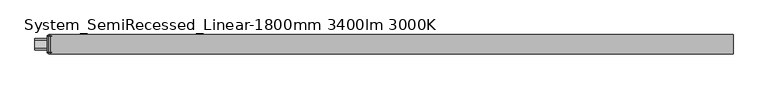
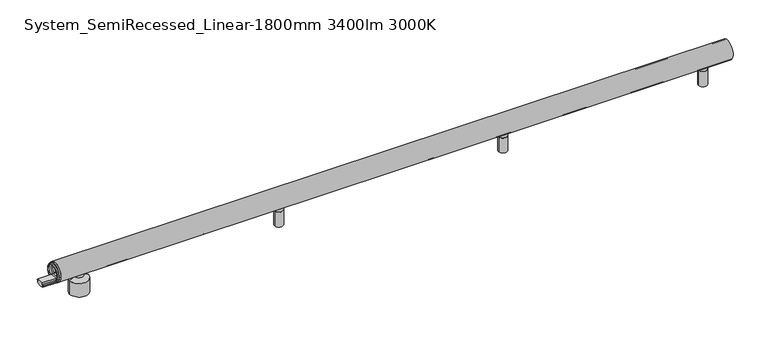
"""IFC4 building model written with IfcOpenShell, lengths in millimetres: light fixture geometry, ARTEMIDE-AoL-System-Linear_WallCeiling_US : System_SemiRecessed_Linear-1800mm 3400lm 3000K."""

from ifc_helpers import new_model, si_unit, point, frame, frame_2d, origin, place, context, project, spatial, polyline, circle_curve, trimmed, segment, composite_curve, outline, extrude, source, transform, mapped, element, save
from ifc_brep_helpers import plane_surface, cylinder_surface, revolved_surface, advanced_brep


def system_semirecessed_linear_1800mm_3400lm_3000k_59401406(model_context):
    return source(origin(), model_context, "Body", "SolidModel", [
        advanced_brep(
        [(-2.0, 25.0245983, 74.9754017), (-2.0, -25.0245983, 74.9754017), (-2.0, -9.5062575, 60.6916114), (-2.0, -9.5062575, 64.3781516), (-2.0, 9.5062575, 64.3781516), (-2.0, 9.5062575, 60.6916114), (-2.0, 15.4273739, 60.6916114), (-2.0, 17.2867732, 60.6916114), (-2.0, -17.2867732, 60.6916114), (-2.0, -15.4273739, 60.6916114), (2.0, 25.0245983, 74.9754017), (2.0, -25.0245983, 74.9754017), (2.0, -9.5062575, 60.6916114), (2.0, -15.4273739, 60.6916114), (2.0, -17.2867732, 60.6916114), (2.0, 17.2867732, 60.6916114), (2.0, 15.4273739, 60.6916114), (2.0, 9.5062575, 60.6916114), (2.0, 9.5062575, 64.3781516), (2.0, -9.5062575, 64.3781516), (-6.0, -15.4273739, 60.6916114), (-6.0, -17.2867732, 60.6916114), (-6.0, 17.2867732, 60.6916114), (-6.0, 15.4273739, 60.6916114), (6.0, -15.4273739, 60.6916114), (6.0, 15.4273739, 60.6916114), (6.0, 17.2867732, 60.6916114), (6.0, -17.2867732, 60.6916114)],
        [
            (0, 1, circle_curve(frame((-2.0, 0.0, 74.9754017), z_axis=(-1.0, 0.0, 0.0), x_axis=(0.0, -1.0, 0.0)), 25.0245983)),
            (1, 0, circle_curve(frame((-2.0, 0.0, 74.9754017), z_axis=(-1.0, 0.0, 0.0), x_axis=(0.0, -1.0, 0.0)), 25.0245983)),
            (2, 3),
            (3, 4),
            (4, 5),
            (5, 6),
            (6, 7),
            (7, 8, circle_curve(frame((-2.0, 0.0, 74.9754017), z_axis=(1.0, 0.0, 0.0), x_axis=(0.0, -1.0, 0.0)), 22.4245221)),
            (8, 9),
            (9, 2),
            (10, 11, circle_curve(frame((2.0, 0.0, 74.9754017), z_axis=(1.0, 0.0, 0.0), x_axis=(0.0, -1.0, 0.0)), 25.0245983)),
            (11, 10, circle_curve(frame((2.0, 0.0, 74.9754017), z_axis=(1.0, 0.0, 0.0), x_axis=(0.0, -1.0, 0.0)), 25.0245983)),
            (12, 13),
            (13, 14),
            (14, 15, circle_curve(frame((2.0, 0.0, 74.9754017), z_axis=(-1.0, 0.0, 0.0), x_axis=(0.0, -1.0, 0.0)), 22.4245221)),
            (15, 16),
            (16, 17),
            (17, 18),
            (18, 19),
            (19, 12),
            (5, 17),
            (16, 6),
            (9, 13),
            (12, 2),
            (19, 3),
            (0, 10),
            (11, 1),
            (16, 13, circle_curve(frame((2.0, 0.0, 74.9754017), z_axis=(1.0, 0.0, 0.0), x_axis=(0.0, -1.0, 0.0)), 21.0245221)),
            (9, 6, circle_curve(frame((-2.0, 0.0, 74.9754017), z_axis=(-1.0, 0.0, 0.0), x_axis=(0.0, -1.0, 0.0)), 21.0245221)),
            (20, 21),
            (21, 22, circle_curve(frame((-6.0, 0.0, 74.9754017), z_axis=(-1.0, 0.0, 0.0), x_axis=(0.0, -1.0, 0.0)), 22.4245221)),
            (22, 23),
            (23, 20, circle_curve(frame((-6.0, 0.0, 74.9754017), z_axis=(1.0, 0.0, 0.0), x_axis=(0.0, -1.0, 0.0)), 21.0245221)),
            (24, 25, circle_curve(frame((6.0, 0.0, 74.9754017), z_axis=(-1.0, 0.0, 0.0), x_axis=(0.0, -1.0, 0.0)), 21.0245221)),
            (25, 26),
            (26, 27, circle_curve(frame((6.0, 0.0, 74.9754017), z_axis=(1.0, 0.0, 0.0), x_axis=(0.0, -1.0, 0.0)), 22.4245221)),
            (27, 24),
            (23, 6),
            (9, 20),
            (24, 13),
            (16, 25),
            (8, 21),
            (27, 14),
            (7, 22),
            (26, 15),
            (18, 4),
        ],
        [
            plane_surface(frame((-2.0, 0.0, 74.9754017), z_axis=(-1.0, 0.0, 0.0), x_axis=(0.0, 0.0, -1.0))),
            plane_surface(frame((2.0, 0.0, 74.9754017), z_axis=(1.0, 0.0, 0.0), x_axis=(0.0, 0.0, -1.0))),
            plane_surface(frame((-2.0, 9.5062575, 60.6916114), z_axis=(0.0, 0.0, 1.0), x_axis=(1.0, 0.0, 0.0))),
            plane_surface(frame((-2.0, -15.4273739, 60.6916114), z_axis=(0.0, 0.0, 1.0), x_axis=(1.0, 0.0, 0.0))),
            plane_surface(frame((-2.0, -9.5062575, 60.6916114), z_axis=(0.0, -1.0, 0.0), x_axis=(1.0, 0.0, 0.0))),
            cylinder_surface(frame((-2.0, 0.0, 74.9754017), z_axis=(-1.0, 0.0, 0.0), x_axis=(0.0, -1.0, 0.0)), 25.0245983),
            revolved_surface(polyline([(2.0, -21.0245221, 74.9754017), (-2.0, -21.0245221, 74.9754017)]), (-2.0, 0.0, 74.9754017), (1.0, 0.0, 0.0)),
            plane_surface(frame((-6.0, 0.0, 74.9754017), z_axis=(-1.0, 0.0, 0.0), x_axis=(0.0, 0.0, -1.0))),
            plane_surface(frame((6.0, 0.0, 74.9754017), z_axis=(1.0, 0.0, 0.0), x_axis=(0.0, 0.0, -1.0))),
            revolved_surface(polyline([(-2.0, -21.0245221, 74.9754017), (-6.0, -21.0245221, 74.9754017)]), (-6.0, 0.0, 74.9754017), (1.0, 0.0, 0.0)),
            revolved_surface(polyline([(6.0, -21.0245221, 74.9754017), (2.0, -21.0245221, 74.9754017)]), (-6.0, 0.0, 74.9754017), (1.0, 0.0, 0.0)),
            plane_surface(frame((-6.0, -15.4273739, 60.6916114), z_axis=(0.0, 0.0, -1.0), x_axis=(1.0, 0.0, 0.0))),
            cylinder_surface(frame((-6.0, 0.0, 74.9754017), z_axis=(-1.0, 0.0, 0.0), x_axis=(0.0, -1.0, 0.0)), 22.4245221),
            plane_surface(frame((-6.0, 17.2867732, 60.6916114), z_axis=(0.0, 0.0, -1.0), x_axis=(1.0, 0.0, 0.0))),
            plane_surface(frame((-2.0, -9.5062575, 64.3781516), z_axis=(0.0, 0.0, 1.0), x_axis=(1.0, 0.0, 0.0))),
            plane_surface(frame((-2.0, 9.5062575, 64.3781516), z_axis=(0.0, 1.0, 0.0), x_axis=(1.0, 0.0, 0.0))),
        ],
        [
            (0, [[1, 2], [3, 4, 5, 6, 7, 8, 9, 10]]),
            (1, [[11, 12], [13, 14, 15, 16, 17, 18, 19, 20]]),
            (2, [[-6, 21, -17, 22]]),
            (3, [[-10, 23, -13, 24]]),
            (4, [[-3, -24, -20, 25]]),
            (5, [[-1, 26, -12, 27]]),
            (6, [[-22, 28, -23, 29]]),
            (7, [[30, 31, 32, 33]]),
            (8, [[34, 35, 36, 37]]),
            (9, [[-33, 38, -29, 39]]),
            (10, [[-34, 40, -28, 41]]),
            (11, [[-30, -39, -9, 42]]),
            (11, [[-37, 43, -14, -40]]),
            (12, [[-31, -42, -8, 44]]),
            (12, [[-36, 45, -15, -43]]),
            (13, [[-32, -44, -7, -38]]),
            (13, [[-35, -41, -16, -45]]),
            (5, [[-2, -27, -11, -26]]),
            (14, [[-4, -25, -19, 46]]),
            (15, [[-5, -46, -18, -21]]),
        ],
    ),
        extrude(outline(composite_curve([segment(polyline([(-11.75, 57.2067494), (-15.304087, 57.2067494), (-15.304087, 58.7367744), (-9.5062575, 58.7367744), (-9.5062575, 64.3781516), (9.5062575, 64.3781516), (9.5062575, 58.7367744), (15.304087, 58.7367744), (15.304087, 57.2067494), (11.75, 57.2067494), (11.75, 52.880877)]), True, "CONTINUOUS"), segment(trimmed(circle_curve(frame_2d((0.0, 74.9754017)), 25.0245983), [point((11.75, 52.880877))], [point((-11.75, 52.880877))], False, "CARTESIAN"), True, "CONTINUOUS"), segment(polyline([(-11.75, 52.880877), (-11.75, 57.2067494)]), True, "CONTINUOUS")], self_intersect=False)), frame((2.0, 0.0, 0.0), z_axis=(1.0, 0.0, 0.0), x_axis=(0.0, 1.0, 0.0)), (0.0, 0.0, 1.0), 36.0),
        extrude(outline(composite_curve([segment(polyline([(-11.75, 57.2067494), (-15.304087, 57.2067494), (-15.304087, 58.7367744), (-9.5062575, 58.7367744), (-9.5062575, 64.3781516), (9.5062575, 64.3781516), (9.5062575, 58.7367744), (15.304087, 58.7367744), (15.304087, 57.2067494), (11.75, 57.2067494), (11.75, 52.880877)]), True, "CONTINUOUS"), segment(trimmed(circle_curve(frame_2d((0.0, 74.9754017)), 25.0245983), [point((11.75, 52.880877))], [point((-11.75, 52.880877))], False, "CARTESIAN"), True, "CONTINUOUS"), segment(polyline([(-11.75, 52.880877), (-11.75, 57.2067494)]), True, "CONTINUOUS")], self_intersect=False)), frame((-38.0, 0.0, 0.0), z_axis=(1.0, 0.0, 0.0), x_axis=(0.0, 1.0, 0.0)), (0.0, 0.0, 1.0), 36.0),
        advanced_brep(
        [(588.6387897, 0.0, 1.0), (598.027877, 0.0, 1.0), (598.027877, 0.0, 0.0), (588.6387897, 0.0, 0.0), (582.1387897, 0.0, 1.0), (604.527877, 0.0, 1.0), (582.1387897, 0.0, 42.5), (604.527877, 0.0, 42.5), (584.6144141, 0.0, 42.5), (602.0522526, 0.0, 42.5), (584.6144141, 0.0, 43.4995055), (602.0522526, 0.0, 43.4995055), (582.1387897, 0.0, 43.4995055), (604.527877, 0.0, 43.4995055), (582.1387897, 0.0, 52.9333396), (604.527877, 0.0, 52.9333396), (593.3333333, 0.0, 52.9333396), (593.3333333, 0.0, 0.0)],
        [
            (0, 1, circle_curve(frame((593.3333333, 0.0, 1.0), z_axis=(0.0, 0.0, -1.0), x_axis=(1.0, 0.0, 0.0)), 4.6945436)),
            (1, 2),
            (2, 3, circle_curve(frame((593.3333333, 0.0, 0.0), z_axis=(0.0, 0.0, 1.0), x_axis=(1.0, 0.0, 0.0)), 4.6945436)),
            (3, 0),
            (1, 0, circle_curve(frame((593.3333333, 0.0, 1.0), z_axis=(0.0, 0.0, -1.0), x_axis=(1.0, 0.0, 0.0)), 4.6945436)),
            (3, 2, circle_curve(frame((593.3333333, 0.0, 0.0), z_axis=(0.0, 0.0, 1.0), x_axis=(1.0, 0.0, 0.0)), 4.6945436)),
            (4, 5, circle_curve(frame((593.3333333, 0.0, 1.0), z_axis=(0.0, 0.0, -1.0), x_axis=(1.0, 0.0, 0.0)), 11.1945436)),
            (5, 1),
            (0, 4),
            (5, 4, circle_curve(frame((593.3333333, 0.0, 1.0), z_axis=(0.0, 0.0, -1.0), x_axis=(1.0, 0.0, 0.0)), 11.1945436)),
            (6, 7, circle_curve(frame((593.3333333, 0.0, 42.5), z_axis=(0.0, 0.0, -1.0), x_axis=(1.0, 0.0, 0.0)), 11.1945436)),
            (7, 5),
            (4, 6),
            (7, 6, circle_curve(frame((593.3333333, 0.0, 42.5), z_axis=(0.0, 0.0, -1.0), x_axis=(1.0, 0.0, 0.0)), 11.1945436)),
            (8, 9, circle_curve(frame((593.3333333, 0.0, 42.5), z_axis=(0.0, 0.0, -1.0), x_axis=(1.0, 0.0, 0.0)), 8.7189192)),
            (9, 7),
            (6, 8),
            (9, 8, circle_curve(frame((593.3333333, 0.0, 42.5), z_axis=(0.0, 0.0, -1.0), x_axis=(1.0, 0.0, 0.0)), 8.7189192)),
            (10, 11, circle_curve(frame((593.3333333, 0.0, 43.4995055), z_axis=(0.0, 0.0, -1.0), x_axis=(1.0, 0.0, 0.0)), 8.7189192)),
            (11, 9),
            (8, 10),
            (11, 10, circle_curve(frame((593.3333333, 0.0, 43.4995055), z_axis=(0.0, 0.0, -1.0), x_axis=(1.0, 0.0, 0.0)), 8.7189192)),
            (12, 13, circle_curve(frame((593.3333333, 0.0, 43.4995055), z_axis=(0.0, 0.0, -1.0), x_axis=(1.0, 0.0, 0.0)), 11.1945436)),
            (13, 11),
            (10, 12),
            (13, 12, circle_curve(frame((593.3333333, 0.0, 43.4995055), z_axis=(0.0, 0.0, -1.0), x_axis=(1.0, 0.0, 0.0)), 11.1945436)),
            (14, 15, circle_curve(frame((593.3333333, 0.0, 52.9333396), z_axis=(0.0, 0.0, -1.0), x_axis=(1.0, 0.0, 0.0)), 11.1945436)),
            (15, 13),
            (12, 14),
            (15, 14, circle_curve(frame((593.3333333, 0.0, 52.9333396), z_axis=(0.0, 0.0, -1.0), x_axis=(1.0, 0.0, 0.0)), 11.1945436)),
            (16, 15),
            (14, 16),
            (2, 17),
            (17, 3),
        ],
        [
            cylinder_surface(frame((593.3333333, 0.0, -58.83358), z_axis=(0.0, 0.0, 1.0), x_axis=(1.0, 0.0, 0.0)), 4.6945436),
            plane_surface(frame((593.3333333, 0.0, 1.0), z_axis=(0.0, 0.0, -1.0), x_axis=(1.0, 0.0, 0.0))),
            cylinder_surface(frame((593.3333333, 0.0, -58.83358), z_axis=(0.0, 0.0, 1.0), x_axis=(1.0, 0.0, 0.0)), 11.1945436),
            plane_surface(frame((593.3333333, 0.0, 42.5), z_axis=(0.0, 0.0, 1.0), x_axis=(1.0, 0.0, 0.0))),
            cylinder_surface(frame((593.3333333, 0.0, -58.83358), z_axis=(0.0, 0.0, 1.0), x_axis=(1.0, 0.0, 0.0)), 8.7189192),
            plane_surface(frame((593.3333333, 0.0, 43.4995055), z_axis=(0.0, 0.0, -1.0), x_axis=(1.0, 0.0, 0.0))),
            plane_surface(frame((593.3333333, 0.0, 52.9333396), z_axis=(0.0, 0.0, 1.0), x_axis=(1.0, 0.0, 0.0))),
            plane_surface(frame((593.3333333, 0.0, 0.0), z_axis=(0.0, 0.0, -1.0), x_axis=(1.0, 0.0, 0.0))),
        ],
        [
            (0, [[1, 2, 3, 4]]),
            (0, [[5, -4, 6, -2]]),
            (1, [[7, 8, -1, 9]]),
            (1, [[10, -9, -5, -8]]),
            (2, [[11, 12, -7, 13]]),
            (2, [[14, -13, -10, -12]]),
            (3, [[15, 16, -11, 17]]),
            (3, [[18, -17, -14, -16]]),
            (4, [[19, 20, -15, 21]]),
            (4, [[22, -21, -18, -20]]),
            (5, [[23, 24, -19, 25]]),
            (5, [[26, -25, -22, -24]]),
            (2, [[27, 28, -23, 29]]),
            (2, [[30, -29, -26, -28]]),
            (6, [[31, -27, 32]]),
            (6, [[-32, -30, -31]]),
            (7, [[-3, 33, 34]]),
            (7, [[-6, -34, -33]]),
        ],
    ),
        advanced_brep(
        [(1181.972123, 0.0, 1.0), (1191.3612103, 0.0, 1.0), (1191.3612103, 0.0, 0.0), (1181.972123, 0.0, 0.0), (1175.472123, 0.0, 1.0), (1197.8612103, 0.0, 1.0), (1175.472123, 0.0, 42.5), (1197.8612103, 0.0, 42.5), (1177.9477474, 0.0, 42.5), (1195.3855859, 0.0, 42.5), (1177.9477474, 0.0, 43.4995055), (1195.3855859, 0.0, 43.4995055), (1175.472123, 0.0, 43.4995055), (1197.8612103, 0.0, 43.4995055), (1175.472123, 0.0, 52.9333396), (1197.8612103, 0.0, 52.9333396), (1186.6666667, 0.0, 52.9333396), (1186.6666667, 0.0, 0.0)],
        [
            (0, 1, circle_curve(frame((1186.6666667, 0.0, 1.0), z_axis=(0.0, 0.0, -1.0), x_axis=(1.0, 0.0, 0.0)), 4.6945436)),
            (1, 2),
            (2, 3, circle_curve(frame((1186.6666667, 0.0, 0.0), z_axis=(0.0, 0.0, 1.0), x_axis=(1.0, 0.0, 0.0)), 4.6945436)),
            (3, 0),
            (1, 0, circle_curve(frame((1186.6666667, 0.0, 1.0), z_axis=(0.0, 0.0, -1.0), x_axis=(1.0, 0.0, 0.0)), 4.6945436)),
            (3, 2, circle_curve(frame((1186.6666667, 0.0, 0.0), z_axis=(0.0, 0.0, 1.0), x_axis=(1.0, 0.0, 0.0)), 4.6945436)),
            (4, 5, circle_curve(frame((1186.6666667, 0.0, 1.0), z_axis=(0.0, 0.0, -1.0), x_axis=(1.0, 0.0, 0.0)), 11.1945436)),
            (5, 1),
            (0, 4),
            (5, 4, circle_curve(frame((1186.6666667, 0.0, 1.0), z_axis=(0.0, 0.0, -1.0), x_axis=(1.0, 0.0, 0.0)), 11.1945436)),
            (6, 7, circle_curve(frame((1186.6666667, 0.0, 42.5), z_axis=(0.0, 0.0, -1.0), x_axis=(1.0, 0.0, 0.0)), 11.1945436)),
            (7, 5),
            (4, 6),
            (7, 6, circle_curve(frame((1186.6666667, 0.0, 42.5), z_axis=(0.0, 0.0, -1.0), x_axis=(1.0, 0.0, 0.0)), 11.1945436)),
            (8, 9, circle_curve(frame((1186.6666667, 0.0, 42.5), z_axis=(0.0, 0.0, -1.0), x_axis=(1.0, 0.0, 0.0)), 8.7189192)),
            (9, 7),
            (6, 8),
            (9, 8, circle_curve(frame((1186.6666667, 0.0, 42.5), z_axis=(0.0, 0.0, -1.0), x_axis=(1.0, 0.0, 0.0)), 8.7189192)),
            (10, 11, circle_curve(frame((1186.6666667, 0.0, 43.4995055), z_axis=(0.0, 0.0, -1.0), x_axis=(1.0, 0.0, 0.0)), 8.7189192)),
            (11, 9),
            (8, 10),
            (11, 10, circle_curve(frame((1186.6666667, 0.0, 43.4995055), z_axis=(0.0, 0.0, -1.0), x_axis=(1.0, 0.0, 0.0)), 8.7189192)),
            (12, 13, circle_curve(frame((1186.6666667, 0.0, 43.4995055), z_axis=(0.0, 0.0, -1.0), x_axis=(1.0, 0.0, 0.0)), 11.1945436)),
            (13, 11),
            (10, 12),
            (13, 12, circle_curve(frame((1186.6666667, 0.0, 43.4995055), z_axis=(0.0, 0.0, -1.0), x_axis=(1.0, 0.0, 0.0)), 11.1945436)),
            (14, 15, circle_curve(frame((1186.6666667, 0.0, 52.9333396), z_axis=(0.0, 0.0, -1.0), x_axis=(1.0, 0.0, 0.0)), 11.1945436)),
            (15, 13),
            (12, 14),
            (15, 14, circle_curve(frame((1186.6666667, 0.0, 52.9333396), z_axis=(0.0, 0.0, -1.0), x_axis=(1.0, 0.0, 0.0)), 11.1945436)),
            (16, 15),
            (14, 16),
            (2, 17),
            (17, 3),
        ],
        [
            cylinder_surface(frame((1186.6666667, 0.0, -58.83358), z_axis=(0.0, 0.0, 1.0), x_axis=(1.0, 0.0, 0.0)), 4.6945436),
            plane_surface(frame((1186.6666667, 0.0, 1.0), z_axis=(0.0, 0.0, -1.0), x_axis=(1.0, 0.0, 0.0))),
            cylinder_surface(frame((1186.6666667, 0.0, -58.83358), z_axis=(0.0, 0.0, 1.0), x_axis=(1.0, 0.0, 0.0)), 11.1945436),
            plane_surface(frame((1186.6666667, 0.0, 42.5), z_axis=(0.0, 0.0, 1.0), x_axis=(1.0, 0.0, 0.0))),
            cylinder_surface(frame((1186.6666667, 0.0, -58.83358), z_axis=(0.0, 0.0, 1.0), x_axis=(1.0, 0.0, 0.0)), 8.7189192),
            plane_surface(frame((1186.6666667, 0.0, 43.4995055), z_axis=(0.0, 0.0, -1.0), x_axis=(1.0, 0.0, 0.0))),
            plane_surface(frame((1186.6666667, 0.0, 52.9333396), z_axis=(0.0, 0.0, 1.0), x_axis=(1.0, 0.0, 0.0))),
            plane_surface(frame((1186.6666667, 0.0, 0.0), z_axis=(0.0, 0.0, -1.0), x_axis=(1.0, 0.0, 0.0))),
        ],
        [
            (0, [[1, 2, 3, 4]]),
            (0, [[5, -4, 6, -2]]),
            (1, [[7, 8, -1, 9]]),
            (1, [[10, -9, -5, -8]]),
            (2, [[11, 12, -7, 13]]),
            (2, [[14, -13, -10, -12]]),
            (3, [[15, 16, -11, 17]]),
            (3, [[18, -17, -14, -16]]),
            (4, [[19, 20, -15, 21]]),
            (4, [[22, -21, -18, -20]]),
            (5, [[23, 24, -19, 25]]),
            (5, [[26, -25, -22, -24]]),
            (2, [[27, 28, -23, 29]]),
            (2, [[30, -29, -26, -28]]),
            (6, [[31, -27, 32]]),
            (6, [[-32, -30, -31]]),
            (7, [[-3, 33, 34]]),
            (7, [[-6, -34, -33]]),
        ],
    ),
        advanced_brep(
        [(64.0, 0.0, 54.0), (76.0, 0.0, 54.0), (52.0, 0.0, 54.0), (39.0, 0.0, 0.0), (89.0, 0.0, 0.0), (64.0, 0.0, 0.0), (39.0, 0.0, 37.5120373), (89.0, 0.0, 37.5120373), (52.0, 0.0, 44.4453706), (76.0, 0.0, 44.4453706)],
        [
            (0, 1),
            (1, 2, circle_curve(frame((64.0, 0.0, 54.0), z_axis=(0.0, 0.0, 1.0), x_axis=(1.0, 0.0, 0.0)), 12.0)),
            (2, 0),
            (2, 1, circle_curve(frame((64.0, 0.0, 54.0), z_axis=(0.0, 0.0, 1.0), x_axis=(1.0, 0.0, 0.0)), 12.0)),
            (3, 4, circle_curve(frame((64.0, 0.0, 0.0), z_axis=(0.0, 0.0, -1.0), x_axis=(1.0, 0.0, 0.0)), 25.0)),
            (4, 5),
            (5, 3),
            (4, 3, circle_curve(frame((64.0, 0.0, 0.0), z_axis=(0.0, 0.0, -1.0), x_axis=(1.0, 0.0, 0.0)), 25.0)),
            (6, 7, circle_curve(frame((64.0, 0.0, 37.5120373), z_axis=(0.0, 0.0, -1.0), x_axis=(1.0, 0.0, 0.0)), 25.0)),
            (7, 4),
            (3, 6),
            (7, 6, circle_curve(frame((64.0, 0.0, 37.5120373), z_axis=(0.0, 0.0, -1.0), x_axis=(1.0, 0.0, 0.0)), 25.0)),
            (8, 9, circle_curve(frame((64.0, 0.0, 44.4453706), z_axis=(0.0, 0.0, -1.0), x_axis=(1.0, 0.0, 0.0)), 12.0)),
            (9, 7),
            (6, 8),
            (9, 8, circle_curve(frame((64.0, 0.0, 44.4453706), z_axis=(0.0, 0.0, -1.0), x_axis=(1.0, 0.0, 0.0)), 12.0)),
            (1, 9),
            (8, 2),
        ],
        [
            plane_surface(frame((64.0, 0.0, 54.0), z_axis=(0.0, 0.0, 1.0), x_axis=(1.0, 0.0, 0.0))),
            plane_surface(frame((64.0, 0.0, 0.0), z_axis=(0.0, 0.0, -1.0), x_axis=(1.0, 0.0, 0.0))),
            cylinder_surface(frame((64.0, 0.0, -58.83358), z_axis=(0.0, 0.0, 1.0), x_axis=(1.0, 0.0, 0.0)), 25.0),
            revolved_surface(polyline([(89.0, 0.0, 37.5120373), (76.0, 0.0, 44.4453706)]), (64.0, 0.0, -58.83358), (0.0, 0.0, 1.0)),
            cylinder_surface(frame((64.0, 0.0, -58.83358), z_axis=(0.0, 0.0, 1.0), x_axis=(1.0, 0.0, 0.0)), 12.0),
        ],
        [
            (0, [[1, 2, 3]]),
            (0, [[-3, 4, -1]]),
            (1, [[5, 6, 7]]),
            (1, [[8, -7, -6]]),
            (2, [[9, 10, -5, 11]]),
            (2, [[12, -11, -8, -10]]),
            (3, [[13, 14, -9, 15]]),
            (3, [[16, -15, -12, -14]]),
            (4, [[-2, 17, -13, 18]]),
            (4, [[-4, -18, -16, -17]]),
        ],
    ),
        advanced_brep(
        [(1711.3054564, 0.0, 1.0), (1720.6945436, 0.0, 1.0), (1720.6945436, 0.0, 0.0), (1711.3054564, 0.0, 0.0), (1704.8054564, 0.0, 1.0), (1727.1945436, 0.0, 1.0), (1704.8054564, 0.0, 42.5), (1727.1945436, 0.0, 42.5), (1707.2810808, 0.0, 42.5), (1724.7189192, 0.0, 42.5), (1707.2810808, 0.0, 43.4995055), (1724.7189192, 0.0, 43.4995055), (1704.8054564, 0.0, 43.4995055), (1727.1945436, 0.0, 43.4995055), (1704.8054564, 0.0, 52.9333396), (1727.1945436, 0.0, 52.9333396), (1716.0, 0.0, 52.9333396), (1716.0, 0.0, 0.0)],
        [
            (0, 1, circle_curve(frame((1716.0, 0.0, 1.0), z_axis=(0.0, 0.0, -1.0), x_axis=(1.0, 0.0, 0.0)), 4.6945436)),
            (1, 2),
            (2, 3, circle_curve(frame((1716.0, 0.0, 0.0), z_axis=(0.0, 0.0, 1.0), x_axis=(1.0, 0.0, 0.0)), 4.6945436)),
            (3, 0),
            (1, 0, circle_curve(frame((1716.0, 0.0, 1.0), z_axis=(0.0, 0.0, -1.0), x_axis=(1.0, 0.0, 0.0)), 4.6945436)),
            (3, 2, circle_curve(frame((1716.0, 0.0, 0.0), z_axis=(0.0, 0.0, 1.0), x_axis=(1.0, 0.0, 0.0)), 4.6945436)),
            (4, 5, circle_curve(frame((1716.0, 0.0, 1.0), z_axis=(0.0, 0.0, -1.0), x_axis=(1.0, 0.0, 0.0)), 11.1945436)),
            (5, 1),
            (0, 4),
            (5, 4, circle_curve(frame((1716.0, 0.0, 1.0), z_axis=(0.0, 0.0, -1.0), x_axis=(1.0, 0.0, 0.0)), 11.1945436)),
            (6, 7, circle_curve(frame((1716.0, 0.0, 42.5), z_axis=(0.0, 0.0, -1.0), x_axis=(1.0, 0.0, 0.0)), 11.1945436)),
            (7, 5),
            (4, 6),
            (7, 6, circle_curve(frame((1716.0, 0.0, 42.5), z_axis=(0.0, 0.0, -1.0), x_axis=(1.0, 0.0, 0.0)), 11.1945436)),
            (8, 9, circle_curve(frame((1716.0, 0.0, 42.5), z_axis=(0.0, 0.0, -1.0), x_axis=(1.0, 0.0, 0.0)), 8.7189192)),
            (9, 7),
            (6, 8),
            (9, 8, circle_curve(frame((1716.0, 0.0, 42.5), z_axis=(0.0, 0.0, -1.0), x_axis=(1.0, 0.0, 0.0)), 8.7189192)),
            (10, 11, circle_curve(frame((1716.0, 0.0, 43.4995055), z_axis=(0.0, 0.0, -1.0), x_axis=(1.0, 0.0, 0.0)), 8.7189192)),
            (11, 9),
            (8, 10),
            (11, 10, circle_curve(frame((1716.0, 0.0, 43.4995055), z_axis=(0.0, 0.0, -1.0), x_axis=(1.0, 0.0, 0.0)), 8.7189192)),
            (12, 13, circle_curve(frame((1716.0, 0.0, 43.4995055), z_axis=(0.0, 0.0, -1.0), x_axis=(1.0, 0.0, 0.0)), 11.1945436)),
            (13, 11),
            (10, 12),
            (13, 12, circle_curve(frame((1716.0, 0.0, 43.4995055), z_axis=(0.0, 0.0, -1.0), x_axis=(1.0, 0.0, 0.0)), 11.1945436)),
            (14, 15, circle_curve(frame((1716.0, 0.0, 52.9333396), z_axis=(0.0, 0.0, -1.0), x_axis=(1.0, 0.0, 0.0)), 11.1945436)),
            (15, 13),
            (12, 14),
            (15, 14, circle_curve(frame((1716.0, 0.0, 52.9333396), z_axis=(0.0, 0.0, -1.0), x_axis=(1.0, 0.0, 0.0)), 11.1945436)),
            (16, 15),
            (14, 16),
            (2, 17),
            (17, 3),
        ],
        [
            cylinder_surface(frame((1716.0, 0.0, -58.83358), z_axis=(0.0, 0.0, 1.0), x_axis=(1.0, 0.0, 0.0)), 4.6945436),
            plane_surface(frame((1716.0, 0.0, 1.0), z_axis=(0.0, 0.0, -1.0), x_axis=(1.0, 0.0, 0.0))),
            cylinder_surface(frame((1716.0, 0.0, -58.83358), z_axis=(0.0, 0.0, 1.0), x_axis=(1.0, 0.0, 0.0)), 11.1945436),
            plane_surface(frame((1716.0, 0.0, 42.5), z_axis=(0.0, 0.0, 1.0), x_axis=(1.0, 0.0, 0.0))),
            cylinder_surface(frame((1716.0, 0.0, -58.83358), z_axis=(0.0, 0.0, 1.0), x_axis=(1.0, 0.0, 0.0)), 8.7189192),
            plane_surface(frame((1716.0, 0.0, 43.4995055), z_axis=(0.0, 0.0, -1.0), x_axis=(1.0, 0.0, 0.0))),
            plane_surface(frame((1716.0, 0.0, 52.9333396), z_axis=(0.0, 0.0, 1.0), x_axis=(1.0, 0.0, 0.0))),
            plane_surface(frame((1716.0, 0.0, 0.0), z_axis=(0.0, 0.0, -1.0), x_axis=(1.0, 0.0, 0.0))),
        ],
        [
            (0, [[1, 2, 3, 4]]),
            (0, [[5, -4, 6, -2]]),
            (1, [[7, 8, -1, 9]]),
            (1, [[10, -9, -5, -8]]),
            (2, [[11, 12, -7, 13]]),
            (2, [[14, -13, -10, -12]]),
            (3, [[15, 16, -11, 17]]),
            (3, [[18, -17, -14, -16]]),
            (4, [[19, 20, -15, 21]]),
            (4, [[22, -21, -18, -20]]),
            (5, [[23, 24, -19, 25]]),
            (5, [[26, -25, -22, -24]]),
            (2, [[27, 28, -23, 29]]),
            (2, [[30, -29, -26, -28]]),
            (6, [[31, -27, 32]]),
            (6, [[-32, -30, -31]]),
            (7, [[-3, 33, 34]]),
            (7, [[-6, -34, -33]]),
        ],
    ),
        extrude(outline(composite_curve([segment(trimmed(circle_curve(frame_2d((0.0, 75.0)), 25.0), [point((-11.75, 52.9333396))], [point((11.75, 52.9333396))], False, "CARTESIAN"), True, "CONTINUOUS"), segment(polyline([(11.75, 52.9333396), (11.75, 57.259212), (13.667754, 57.259212), (13.667754, 55.8288843), (15.617754, 57.2440748), (15.617754, 59.244074), (12.667754, 59.244074), (12.667754, 60.744074), (17.2779794, 60.744074)]), True, "CONTINUOUS"), segment(trimmed(circle_curve(frame_2d((0.0, 75.0)), 22.4), [point((17.2779794, 60.744074))], [point((-17.2779794, 60.744074))], True, "CARTESIAN"), True, "CONTINUOUS"), segment(polyline([(-17.2779794, 60.744074), (-12.667754, 60.744074), (-12.667754, 59.244074), (-15.617754, 59.244074), (-15.617754, 57.2440748), (-13.667754, 55.8288843), (-13.667754, 57.259212), (-11.75, 57.259212), (-11.75, 52.9333396)]), True, "CONTINUOUS")], self_intersect=False)), frame((2.0, 0.0, 0.0), z_axis=(1.0, 0.0, 0.0), x_axis=(0.0, 1.0, 0.0)), (0.0, 0.0, 1.0), 1780.0),
        extrude(outline(composite_curve([segment(trimmed(circle_curve(frame_2d((0.0, 75.0)), 25.0), [point((11.75, 52.9333396))], [point((-11.75, 52.9333396))], False, "CARTESIAN"), True, "CONTINUOUS"), segment(polyline([(-11.75, 52.9333396), (-11.75, 57.259212), (-15.304087, 57.259212), (-15.304087, 58.785971), (-9.5062575, 58.785971), (-9.5062575, 64.4273482), (9.5062575, 64.4273482), (9.5062575, 58.785971), (15.304087, 58.785971), (15.304087, 57.259212), (11.75, 57.259212), (11.75, 52.9333396)]), True, "CONTINUOUS")], self_intersect=False)), frame((38.0, 0.0, 0.0), z_axis=(1.0, 0.0, 0.0), x_axis=(0.0, 1.0, 0.0)), (0.0, 0.0, 1.0), 1744.0),
    ])


if __name__ == "__main__":
    model = new_model("IFC4")
    model_context = context("Model", 3, world=origin())
    ifc_project = project(units=[si_unit("LENGTHUNIT", "METRE", prefix="MILLI")], contexts=[model_context])
    site = spatial("IfcSite", under=ifc_project)
    building = spatial("IfcBuilding", under=site)
    placement = place(None, origin())
    system_semirecessed_linear_1800mm_3400lm_3000k_shape = system_semirecessed_linear_1800mm_3400lm_3000k_59401406(model_context)
    element("IfcLightFixture", 1, ObjectType="ARTEMIDE-AoL-System-Linear_WallCeiling_US : System_SemiRecessed_Linear-1800mm 3400lm 3000K", at=placement, inside=building, context=model_context, shape_type="MappedRepresentation", body=[
        mapped(system_semirecessed_linear_1800mm_3400lm_3000k_shape, transform((0.0, 0.0, 0.0), x_axis=(1.0, 0.0, 0.0), y_axis=(0.0, 1.0, 0.0), z_axis=(0.0, 0.0, 1.0))),
    ])
    save(model, "model.ifc")
